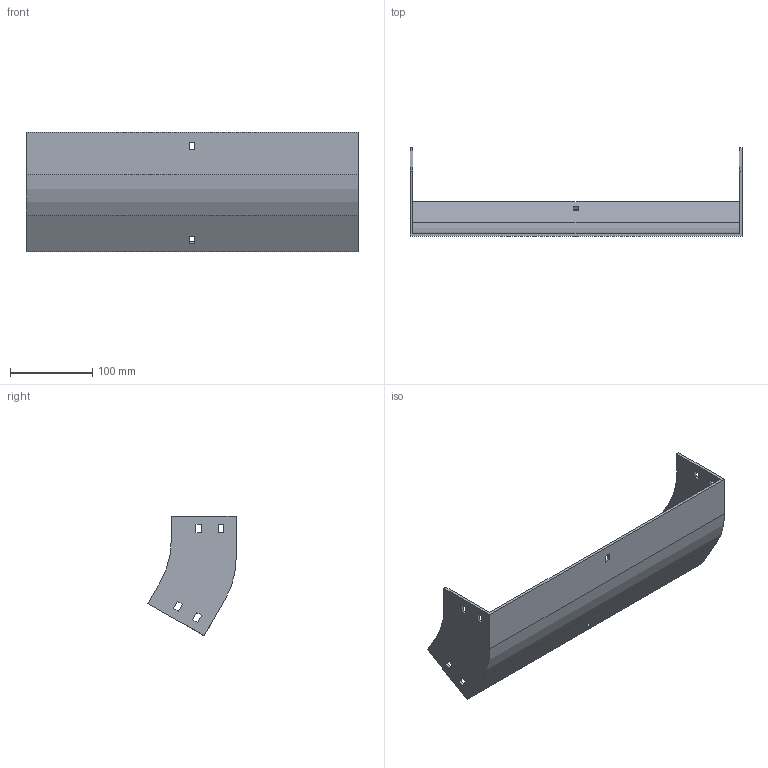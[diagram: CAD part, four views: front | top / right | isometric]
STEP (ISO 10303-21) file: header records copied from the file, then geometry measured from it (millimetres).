
FILE_DESCRIPTION (( 'STEP AP214' ), '1' );
FILE_NAME ('32F1C400.step', '2025-02-21T12:58:42', ( '' ), ( '' ), 'SwSTEP 2.0', 'SolidWorks 2023', '' );
FILE_SCHEMA (( 'AUTOMOTIVE_DESIGN' ));
Length unit declared in the file: millimetre
Products named in the file (1): 32F1C400
Bounding box: 404 x 107.4 x 145.48 mm (x, y, z)
Volume: 285828.3 mm3; surface area: 169177.4 mm2
Topology: 1 solids, 1 shells, 58 faces, 168 edges, 112 vertices
Faces by surface type: plane 54, cylinder 4
Entity records: 1943 total; most frequent: CARTESIAN_POINT 339, ORIENTED_EDGE 336, DIRECTION 294, EDGE_CURVE 168, LINE 160, VECTOR 160, VERTEX_POINT 112, EDGE_LOOP 78
